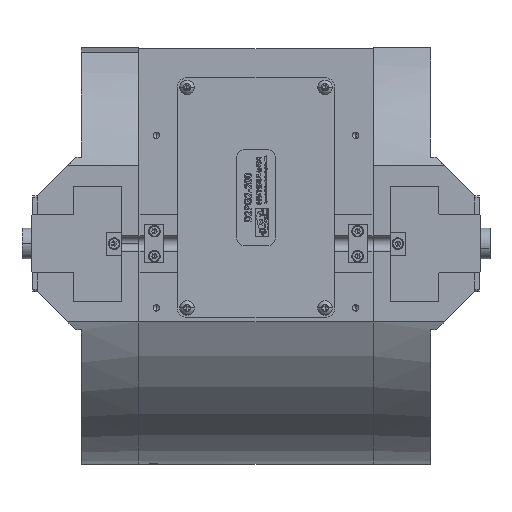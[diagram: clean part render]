
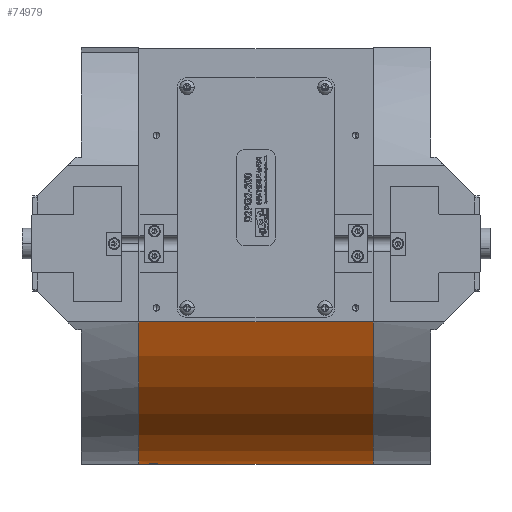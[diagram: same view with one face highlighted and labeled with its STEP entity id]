
A CAD part, left-side view. The second image highlights one B-rep face of the part: STEP entity #74979.
In plain terms, the highlighted cylindrical face has radius 115 mm (diameter 230 mm), a partial arc.
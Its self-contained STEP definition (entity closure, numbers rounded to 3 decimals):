
#2714 = CARTESIAN_POINT ( 'NONE',  ( -107.5, -61., -40.85 ) ) ;
#2720 = CARTESIAN_POINT ( 'NONE',  ( -107.5, 61., -40.85 ) ) ;
#2745 = CARTESIAN_POINT ( 'NONE',  ( 0., 61., -115. ) ) ;
#2756 = CARTESIAN_POINT ( 'NONE',  ( 0., -61., -115. ) ) ;
#8477 = B_SPLINE_CURVE_WITH_KNOTS ( 'NONE', 3,
 ( #79742, #79745, #79746, #79747, #79748, #79749, #79750, #79751, #79752, #79753, #79754, #79755, #79756, #79757, #79758, #79759, #79760, #79761, #79762, #79763, #79764, #79765, #79766, #79767, #79768, #79769, #79770, #79771, #79772, #79773 ),
 .UNSPECIFIED., .F., .F.,
 ( 4, 2, 2, 2, 2, 2, 2, 2, 2, 2, 2, 2, 2, 2, 4 ),
 ( 0., 0., 0.001, 0.001, 0.002, 0.002, 0.003, 0.004, 0.004, 0.004, 0.005, 0.005, 0.005, 0.006, 0.006 ),
 .UNSPECIFIED. ) ;
#8776 = B_SPLINE_CURVE_WITH_KNOTS ( 'NONE', 3,
 ( #16098, #16101, #16102, #16103, #16104, #16105, #16106, #16107, #16108, #16109, #16110, #16111, #16112, #16113, #16114, #16115, #16116, #16117, #16118, #16119, #16120, #16121, #16122, #16123, #16124, #16125, #16126, #16127 ),
 .UNSPECIFIED., .F., .F.,
 ( 4, 2, 2, 2, 2, 2, 2, 2, 2, 2, 2, 2, 2, 4 ),
 ( 0.006, 0.007, 0.008, 0.008, 0.009, 0.009, 0.009, 0.01, 0.01, 0.011, 0.011, 0.011, 0.012, 0.013 ),
 .UNSPECIFIED. ) ;
#16098 = CARTESIAN_POINT ( 'NONE',  ( -11., 53.5, -114.473 ) ) ;
#16101 = CARTESIAN_POINT ( 'NONE',  ( -11., 53.239, -114.473 ) ) ;
#16102 = CARTESIAN_POINT ( 'NONE',  ( -10.947, 52.975, -114.478 ) ) ;
#16103 = CARTESIAN_POINT ( 'NONE',  ( -10.748, 52.493, -114.497 ) ) ;
#16104 = CARTESIAN_POINT ( 'NONE',  ( -10.599, 52.27, -114.511 ) ) ;
#16105 = CARTESIAN_POINT ( 'NONE',  ( -10.322, 51.994, -114.536 ) ) ;
#16106 = CARTESIAN_POINT ( 'NONE',  ( -10.219, 51.909, -114.545 ) ) ;
#16107 = CARTESIAN_POINT ( 'NONE',  ( -10.002, 51.764, -114.564 ) ) ;
#16108 = CARTESIAN_POINT ( 'NONE',  ( -9.887, 51.703, -114.574 ) ) ;
#16109 = CARTESIAN_POINT ( 'NONE',  ( -9.646, 51.603, -114.595 ) ) ;
#16110 = CARTESIAN_POINT ( 'NONE',  ( -9.519, 51.564, -114.605 ) ) ;
#16111 = CARTESIAN_POINT ( 'NONE',  ( -9.264, 51.513, -114.626 ) ) ;
#16112 = CARTESIAN_POINT ( 'NONE',  ( -9.134, 51.5, -114.637 ) ) ;
#16113 = CARTESIAN_POINT ( 'NONE',  ( -8.871, 51.5, -114.657 ) ) ;
#16114 = CARTESIAN_POINT ( 'NONE',  ( -8.741, 51.513, -114.667 ) ) ;
#16115 = CARTESIAN_POINT ( 'NONE',  ( -8.485, 51.563, -114.687 ) ) ;
#16116 = CARTESIAN_POINT ( 'NONE',  ( -8.359, 51.601, -114.696 ) ) ;
#16117 = CARTESIAN_POINT ( 'NONE',  ( -8.116, 51.701, -114.713 ) ) ;
#16118 = CARTESIAN_POINT ( 'NONE',  ( -8.001, 51.762, -114.721 ) ) ;
#16119 = CARTESIAN_POINT ( 'NONE',  ( -7.784, 51.907, -114.736 ) ) ;
#16120 = CARTESIAN_POINT ( 'NONE',  ( -7.681, 51.991, -114.743 ) ) ;
#16121 = CARTESIAN_POINT ( 'NONE',  ( -7.496, 52.176, -114.756 ) ) ;
#16122 = CARTESIAN_POINT ( 'NONE',  ( -7.413, 52.276, -114.761 ) ) ;
#16123 = CARTESIAN_POINT ( 'NONE',  ( -7.266, 52.494, -114.77 ) ) ;
#16124 = CARTESIAN_POINT ( 'NONE',  ( -7.204, 52.611, -114.774 ) ) ;
#16125 = CARTESIAN_POINT ( 'NONE',  ( -7.053, 52.972, -114.784 ) ) ;
#16126 = CARTESIAN_POINT ( 'NONE',  ( -7., 53.235, -114.787 ) ) ;
#16127 = CARTESIAN_POINT ( 'NONE',  ( -7., 53.5, -114.787 ) ) ;
#21039 = AXIS2_PLACEMENT_3D ( 'NONE', #24708, #24713, #24712 ) ;
#24708 = CARTESIAN_POINT ( 'NONE',  ( 0., 61., 0. ) ) ;
#24712 = DIRECTION ( 'NONE',  ( 0., 0., -1. ) ) ;
#24713 = DIRECTION ( 'NONE',  ( 0., -1., 0. ) ) ;
#26880 = EDGE_CURVE ( 'NONE', #42438, #42457, #80339, .T. ) ;
#26881 = EDGE_CURVE ( 'NONE', #42457, #42380, #80343, .T. ) ;
#26883 = EDGE_CURVE ( 'NONE', #42391, #42380, #80342, .T. ) ;
#26884 = EDGE_CURVE ( 'NONE', #70984, #71028, #8477, .T. ) ;
#26885 = EDGE_CURVE ( 'NONE', #42438, #42391, #80347, .T. ) ;
#28315 = CYLINDRICAL_SURFACE ( 'NONE', #21039, 115. ) ;
#28319 = FACE_OUTER_BOUND ( 'NONE', #52883, .T. ) ;
#28326 = FACE_BOUND ( 'NONE', #52879, .T. ) ;
#42380 = VERTEX_POINT ( 'NONE', #2714 ) ;
#42391 = VERTEX_POINT ( 'NONE', #2720 ) ;
#42438 = VERTEX_POINT ( 'NONE', #2745 ) ;
#42457 = VERTEX_POINT ( 'NONE', #2756 ) ;
#50867 = CARTESIAN_POINT ( 'NONE',  ( -7., 53.5, -114.787 ) ) ;
#50892 = CARTESIAN_POINT ( 'NONE',  ( -11., 53.5, -114.473 ) ) ;
#52879 = EDGE_LOOP ( 'NONE', ( #64599, #64600 ) ) ;
#52883 = EDGE_LOOP ( 'NONE', ( #64601, #64602, #64603, #64604 ) ) ;
#55019 = EDGE_CURVE ( 'NONE', #71028, #70984, #8776, .T. ) ;
#64599 = ORIENTED_EDGE ( 'NONE', *, *, #26884, .T. ) ;
#64600 = ORIENTED_EDGE ( 'NONE', *, *, #55019, .T. ) ;
#64601 = ORIENTED_EDGE ( 'NONE', *, *, #26885, .F. ) ;
#64602 = ORIENTED_EDGE ( 'NONE', *, *, #26880, .T. ) ;
#64603 = ORIENTED_EDGE ( 'NONE', *, *, #26881, .T. ) ;
#64604 = ORIENTED_EDGE ( 'NONE', *, *, #26883, .F. ) ;
#70984 = VERTEX_POINT ( 'NONE', #50867 ) ;
#71028 = VERTEX_POINT ( 'NONE', #50892 ) ;
#74979 = ADVANCED_FACE ( 'NONE', ( #28326, #28319 ), #28315, .T. ) ;
#79413 = AXIS2_PLACEMENT_3D ( 'NONE', #79736, #79737, #79738 ) ;
#79414 = AXIS2_PLACEMENT_3D ( 'NONE', #79741, #79774, #79775 ) ;
#79706 = CARTESIAN_POINT ( 'NONE',  ( 0., 61., -115. ) ) ;
#79734 = CARTESIAN_POINT ( 'NONE',  ( -107.5, 61., -40.85 ) ) ;
#79735 = DIRECTION ( 'NONE',  ( 0., -1., 0. ) ) ;
#79736 = CARTESIAN_POINT ( 'NONE',  ( 0., -61., 0. ) ) ;
#79737 = DIRECTION ( 'NONE',  ( 0., 1., 0. ) ) ;
#79738 = DIRECTION ( 'NONE',  ( 0., 0., 1. ) ) ;
#79741 = CARTESIAN_POINT ( 'NONE',  ( 0., 61., 0. ) ) ;
#79742 = CARTESIAN_POINT ( 'NONE',  ( -7., 53.5, -114.787 ) ) ;
#79743 = DIRECTION ( 'NONE',  ( 0., -1., 0. ) ) ;
#79745 = CARTESIAN_POINT ( 'NONE',  ( -7., 53.632, -114.787 ) ) ;
#79746 = CARTESIAN_POINT ( 'NONE',  ( -7.013, 53.762, -114.786 ) ) ;
#79747 = CARTESIAN_POINT ( 'NONE',  ( -7.064, 54.019, -114.783 ) ) ;
#79748 = CARTESIAN_POINT ( 'NONE',  ( -7.103, 54.146, -114.78 ) ) ;
#79749 = CARTESIAN_POINT ( 'NONE',  ( -7.203, 54.388, -114.774 ) ) ;
#79750 = CARTESIAN_POINT ( 'NONE',  ( -7.265, 54.503, -114.77 ) ) ;
#79751 = CARTESIAN_POINT ( 'NONE',  ( -7.41, 54.721, -114.761 ) ) ;
#79752 = CARTESIAN_POINT ( 'NONE',  ( -7.495, 54.824, -114.756 ) ) ;
#79753 = CARTESIAN_POINT ( 'NONE',  ( -7.772, 55.1, -114.737 ) ) ;
#79754 = CARTESIAN_POINT ( 'NONE',  ( -7.996, 55.249, -114.722 ) ) ;
#79755 = CARTESIAN_POINT ( 'NONE',  ( -8.477, 55.448, -114.687 ) ) ;
#79756 = CARTESIAN_POINT ( 'NONE',  ( -8.74, 55.5, -114.668 ) ) ;
#79757 = CARTESIAN_POINT ( 'NONE',  ( -9.131, 55.5, -114.637 ) ) ;
#79758 = CARTESIAN_POINT ( 'NONE',  ( -9.263, 55.487, -114.626 ) ) ;
#79759 = CARTESIAN_POINT ( 'NONE',  ( -9.519, 55.436, -114.605 ) ) ;
#79760 = CARTESIAN_POINT ( 'NONE',  ( -9.643, 55.398, -114.595 ) ) ;
#79761 = CARTESIAN_POINT ( 'NONE',  ( -9.885, 55.298, -114.574 ) ) ;
#79762 = CARTESIAN_POINT ( 'NONE',  ( -10.002, 55.236, -114.564 ) ) ;
#79763 = CARTESIAN_POINT ( 'NONE',  ( -10.219, 55.091, -114.545 ) ) ;
#79764 = CARTESIAN_POINT ( 'NONE',  ( -10.32, 55.009, -114.536 ) ) ;
#79765 = CARTESIAN_POINT ( 'NONE',  ( -10.506, 54.822, -114.519 ) ) ;
#79766 = CARTESIAN_POINT ( 'NONE',  ( -10.589, 54.721, -114.511 ) ) ;
#79767 = CARTESIAN_POINT ( 'NONE',  ( -10.734, 54.504, -114.498 ) ) ;
#79768 = CARTESIAN_POINT ( 'NONE',  ( -10.797, 54.388, -114.492 ) ) ;
#79769 = CARTESIAN_POINT ( 'NONE',  ( -10.898, 54.145, -114.482 ) ) ;
#79770 = CARTESIAN_POINT ( 'NONE',  ( -10.936, 54.02, -114.479 ) ) ;
#79771 = CARTESIAN_POINT ( 'NONE',  ( -10.987, 53.764, -114.474 ) ) ;
#79772 = CARTESIAN_POINT ( 'NONE',  ( -11., 53.631, -114.473 ) ) ;
#79773 = CARTESIAN_POINT ( 'NONE',  ( -11., 53.5, -114.473 ) ) ;
#79774 = DIRECTION ( 'NONE',  ( 0., 1., 0. ) ) ;
#79775 = DIRECTION ( 'NONE',  ( 0., 0., 1. ) ) ;
#80336 = VECTOR ( 'NONE', #79735, 1000. ) ;
#80339 = LINE ( 'NONE', #79706, #80336 ) ;
#80342 = LINE ( 'NONE', #79734, #80344 ) ;
#80343 = CIRCLE ( 'NONE', #79413, 115. ) ;
#80344 = VECTOR ( 'NONE', #79743, 1000. ) ;
#80347 = CIRCLE ( 'NONE', #79414, 115. ) ;
